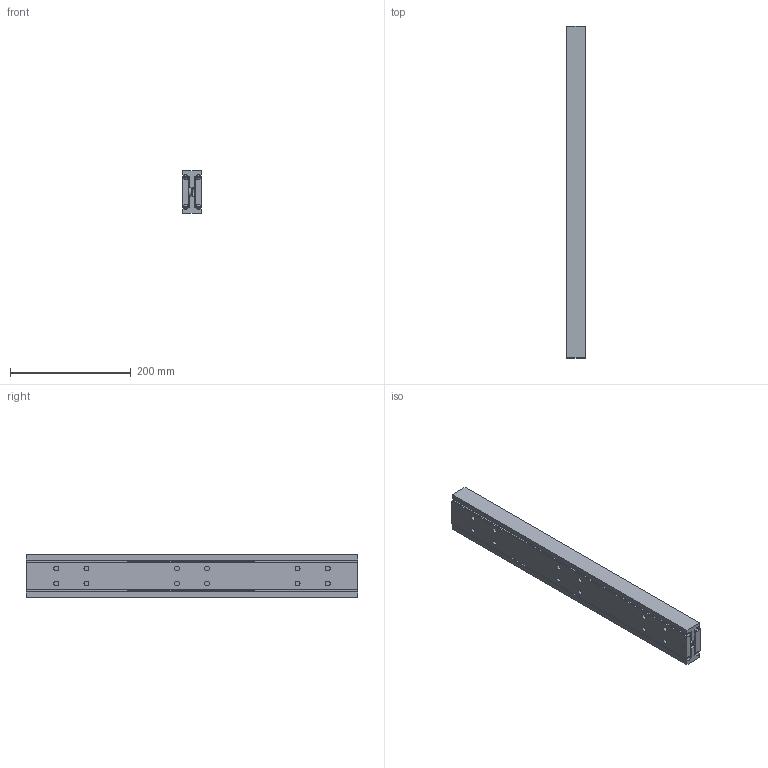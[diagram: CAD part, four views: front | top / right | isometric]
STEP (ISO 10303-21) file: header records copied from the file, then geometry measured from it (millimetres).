
FILE_DESCRIPTION(/* description */ (''),/* implementation_level */ '2;1');
FILE_NAME(/* name */ 'F:\MX-DTP70.055_eingefahren.stp',/* time_stamp */ '2021-01-27T14:21:27+01:00',/* author */ ('Miluxor'),/* organization */ (''),/* preprocessor_version */ 'ST-DEVELOPER v16.13',/* originating_system */ 'AutoCAD Mechanical',/* authorisation */ '');
FILE_SCHEMA (('AUTOMOTIVE_DESIGN { 1 0 10303 214 3 1 1 }'));
Length unit declared in the file: millimetre
Products named in the file (1): Product
Bounding box: 32 x 550 x 70 mm (x, y, z)
Volume: 959546.6 mm3; surface area: 336346 mm2
Topology: 47 solids, 47 shells, 314 faces, 808 edges, 536 vertices
Faces by surface type: plane 206, cylinder 66, sphere 28, bspline 8, torus 6
Full cylindrical faces by diameter (mm): 8 x24, 9 x28, 13 x2
Entity records: 16181 total; most frequent: CARTESIAN_POINT 8693, DIRECTION 1458, ORIENTED_EDGE 1380, EDGE_CURVE 690, VERTEX_POINT 534, LINE 500, VECTOR 500, EDGE_LOOP 482
